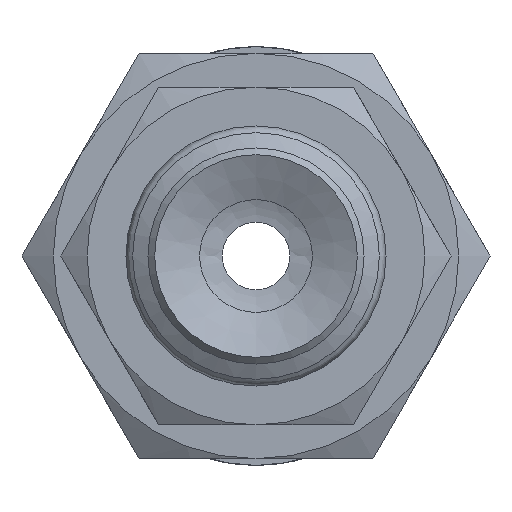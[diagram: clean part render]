
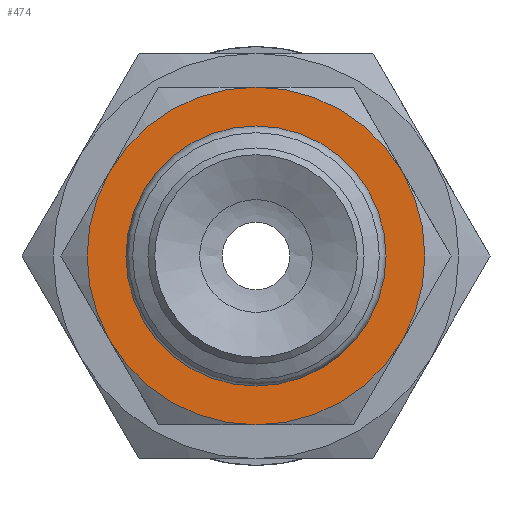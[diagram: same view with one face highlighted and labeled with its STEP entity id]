
A CAD part, front view. The second image highlights one B-rep face of the part: STEP entity #474.
In plain terms, the highlighted planar face has unit normal (0, -1, 0).
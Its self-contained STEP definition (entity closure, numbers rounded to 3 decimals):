
#474=ADVANCED_FACE('',(#651,#652),#653,.T.);
#651=FACE_BOUND('',#1021,.T.);
#652=FACE_OUTER_BOUND('',#1022,.T.);
#653=PLANE('',#1023);
#1021=EDGE_LOOP('',(#1724));
#1022=EDGE_LOOP('',(#1725,#1726,#1727,#1728,#1729,#1730));
#1023=AXIS2_PLACEMENT_3D('',#1731,#1732,#1733);
#1724=ORIENTED_EDGE('',*,*,#2589,.F.);
#1725=ORIENTED_EDGE('',*,*,#2563,.T.);
#1726=ORIENTED_EDGE('',*,*,#2597,.T.);
#1727=ORIENTED_EDGE('',*,*,#2577,.T.);
#1728=ORIENTED_EDGE('',*,*,#2579,.T.);
#1729=ORIENTED_EDGE('',*,*,#2598,.T.);
#1730=ORIENTED_EDGE('',*,*,#2599,.T.);
#1731=CARTESIAN_POINT('',(2.0,0.,0.0));
#1732=DIRECTION('',(0.0,-1.0,0.0));
#1733=DIRECTION('',(0.0,0.0,-1.0));
#2563=EDGE_CURVE('',#2829,#2835,#2837,.T.);
#2577=EDGE_CURVE('',#2860,#2853,#2862,.T.);
#2579=EDGE_CURVE('',#2853,#2863,#2865,.T.);
#2589=EDGE_CURVE('',#2879,#2879,#2880,.T.);
#2597=EDGE_CURVE('',#2835,#2860,#2894,.T.);
#2598=EDGE_CURVE('',#2863,#2812,#2895,.T.);
#2599=EDGE_CURVE('',#2812,#2829,#2896,.T.);
#2812=VERTEX_POINT('',#3258);
#2829=VERTEX_POINT('',#3288);
#2835=VERTEX_POINT('',#3301);
#2837=CIRCLE('',#3305,5.0);
#2853=VERTEX_POINT('',#3333);
#2860=VERTEX_POINT('',#3347);
#2862=CIRCLE('',#3351,5.0);
#2863=VERTEX_POINT('',#3352);
#2865=CIRCLE('',#3356,5.0);
#2879=VERTEX_POINT('',#3375);
#2880=CIRCLE('',#3376,2.0);
#2894=CIRCLE('',#3392,5.0);
#2895=CIRCLE('',#3393,5.0);
#2896=CIRCLE('',#3394,5.0);
#3258=CARTESIAN_POINT('',(-4.33,0.0,-2.5));
#3288=CARTESIAN_POINT('',(0.0,0.0,-5.0));
#3301=CARTESIAN_POINT('',(4.33,0.0,-2.5));
#3305=AXIS2_PLACEMENT_3D('',#4374,#4375,#4376);
#3333=CARTESIAN_POINT('',(0.0,0.0,5.0));
#3347=CARTESIAN_POINT('',(4.33,0.0,2.5));
#3351=AXIS2_PLACEMENT_3D('',#4383,#4384,#4385);
#3352=CARTESIAN_POINT('',(-4.33,0.,2.5));
#3356=AXIS2_PLACEMENT_3D('',#4386,#4387,#4388);
#3375=CARTESIAN_POINT('',(0.0,0.,-2.0));
#3376=AXIS2_PLACEMENT_3D('',#4408,#4409,#4410);
#3392=AXIS2_PLACEMENT_3D('',#4429,#4430,#4431);
#3393=AXIS2_PLACEMENT_3D('',#4432,#4433,#4434);
#3394=AXIS2_PLACEMENT_3D('',#4435,#4436,#4437);
#4374=CARTESIAN_POINT('',(0.0,0.,0.0));
#4375=DIRECTION('',(0.0,-1.0,0.0));
#4376=DIRECTION('',(0.0,0.0,-1.0));
#4383=CARTESIAN_POINT('',(0.0,0.,0.0));
#4384=DIRECTION('',(0.0,-1.0,0.0));
#4385=DIRECTION('',(0.0,0.0,-1.0));
#4386=CARTESIAN_POINT('',(0.0,0.,0.0));
#4387=DIRECTION('',(0.0,-1.0,0.0));
#4388=DIRECTION('',(0.0,0.0,-1.0));
#4408=CARTESIAN_POINT('',(0.0,0.,0.0));
#4409=DIRECTION('',(0.0,-1.0,0.0));
#4410=DIRECTION('',(0.0,0.0,-1.0));
#4429=CARTESIAN_POINT('',(0.0,0.,0.0));
#4430=DIRECTION('',(0.0,-1.0,0.0));
#4431=DIRECTION('',(0.0,0.0,-1.0));
#4432=CARTESIAN_POINT('',(0.0,0.,0.0));
#4433=DIRECTION('',(0.0,-1.0,0.0));
#4434=DIRECTION('',(0.0,0.0,-1.0));
#4435=CARTESIAN_POINT('',(0.0,0.,0.0));
#4436=DIRECTION('',(0.0,-1.0,0.0));
#4437=DIRECTION('',(0.0,0.0,-1.0));
